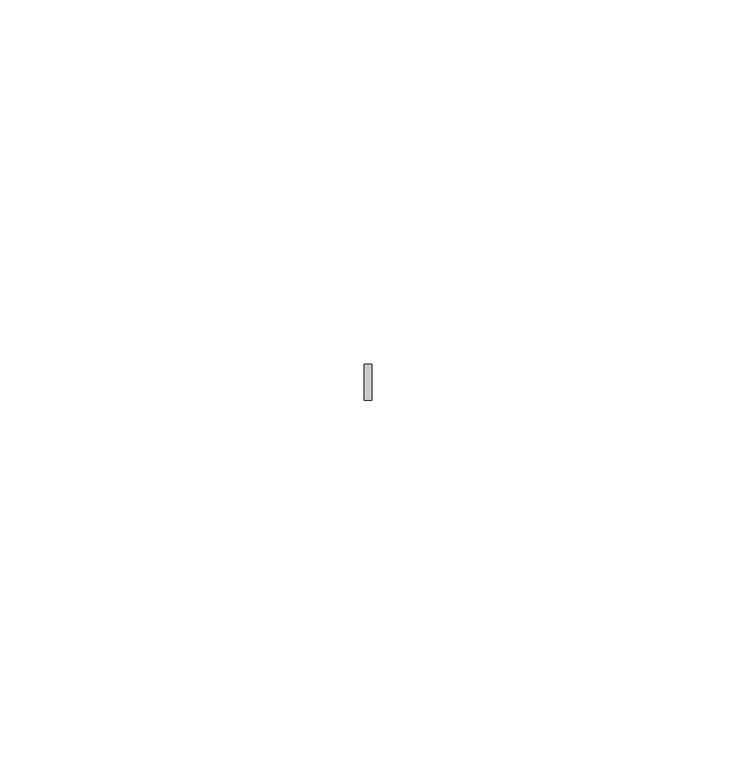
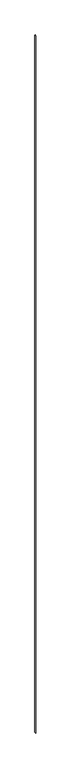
"""IFC4 building model written with IfcOpenShell, lengths in millimetres: member geometry, Прямоугольный импост : 3-AMG-2-Профиль (скотч 3М) 1 средний."""

from ifc_helpers import new_model, si_unit, frame, origin, place, context, project, spatial, polyline, outline, extrude, source, transform, mapped, element, save


def member_f0baebe7(model_context):
    return source(origin(), model_context, "Body", "SweptSolid", [
        extrude(outline(polyline([(0.5087396, -34.5), (-0.5292752, -34.5), (-0.5292752, -29.5), (0.5087396, -29.5), (0.5087396, -34.5)])), frame((0.0, 0.0, -2746.0), z_axis=(0.0, 0.0, 1.0), x_axis=(1.0, 0.0, 0.0)), (0.0, 0.0, 1.0), 2746.0),
    ])


if __name__ == "__main__":
    model = new_model("IFC4")
    model_context = context("Model", 3, world=origin())
    ifc_project = project(units=[si_unit("LENGTHUNIT", "METRE", prefix="MILLI")], contexts=[model_context])
    site = spatial("IfcSite", under=ifc_project)
    building = spatial("IfcBuilding", under=site)
    placement = place(None, origin())
    member_shape = member_f0baebe7(model_context)
    element("IfcMember", 1, ObjectType="Прямоугольный импост : 3-AMG-2-Профиль (скотч 3М) 1 средний", at=placement, inside=building, context=model_context, shape_type="MappedRepresentation", body=[
        mapped(member_shape, transform((0.0, 0.0, 0.0), x_axis=(1.0, 0.0, 0.0), y_axis=(0.0, 1.0, 0.0), z_axis=(0.0, 0.0, 1.0))),
    ])
    save(model, "model.ifc")
